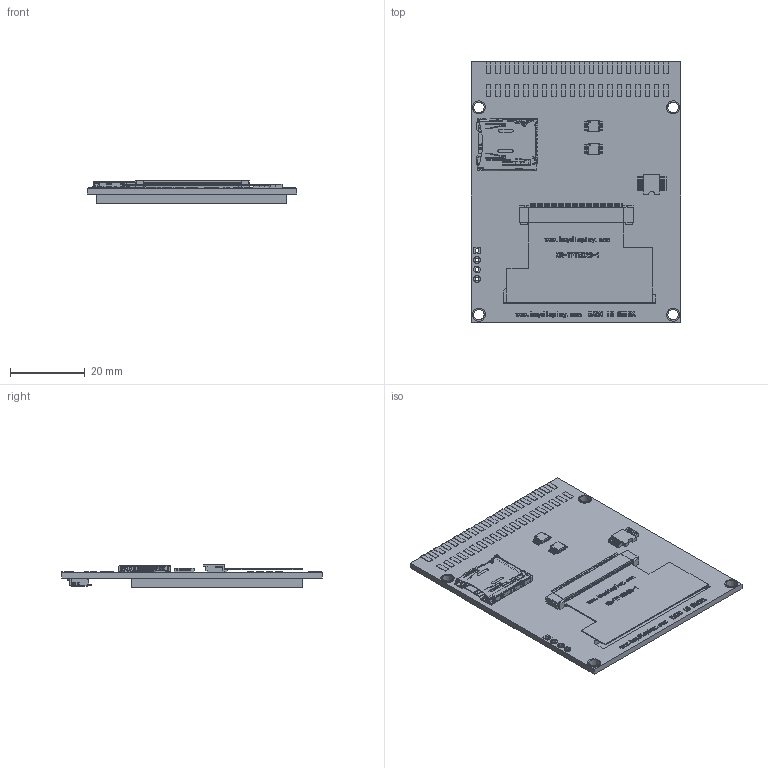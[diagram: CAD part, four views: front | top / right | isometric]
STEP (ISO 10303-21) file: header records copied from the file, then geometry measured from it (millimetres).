
FILE_DESCRIPTION(('HOOPS Exchange Step'),'2;1');
FILE_NAME('\\Server-1\e\公共文件夹\7.产品资料库\彩色-TFT\2.3寸\ER-TFTM023-1\3D\ER-TFTM023-1.step','2021-01-27T18:00:26+08:00',('Administrator'),('Unknown organisation'),'HOOPS Exchange 2018.2','glovius.exe','Unknown authorisation');
FILE_SCHEMA( ('AUTOMOTIVE_DESIGN { 1 0 10303 214 1 1 1 1 }') );
Length unit declared in the file: millimetre
Products named in the file (8): 零件1-1; FLASH-1; SD卡座-1; 连接器_50-Pin-2; 零件8-1; 连接器_50-Pin - 副本-1; Default; ER-TFTM023-1
Assembly tree (8 placements, depth 3):
  ER-TFTM023-1
    Default
      零件1-1
      FLASH-1  x2
      SD卡座-1
      连接器_50-Pin-2
      零件8-1
      连接器_50-Pin - 副本-1
Bounding box: 56 x 69.7 x 6.35 mm (x, y, z)
Volume: 13043.9 mm3; surface area: 18746.9 mm2
Topology: 168 solids, 168 shells, 7340 faces, 18568 edges, 11630 vertices
Faces by surface type: bspline 7340
Entity records: 703827 total; most frequent: CARTESIAN_POINT 468568, B_SPLINE_CURVE_WITH_KNOTS 50349, DEFINITIONAL_REPRESENTATION 35868, PCURVE 35868, ORIENTED_EDGE 35868, INTERSECTION_CURVE 17934, EDGE_CURVE 17934, VERTEX_POINT 11404
